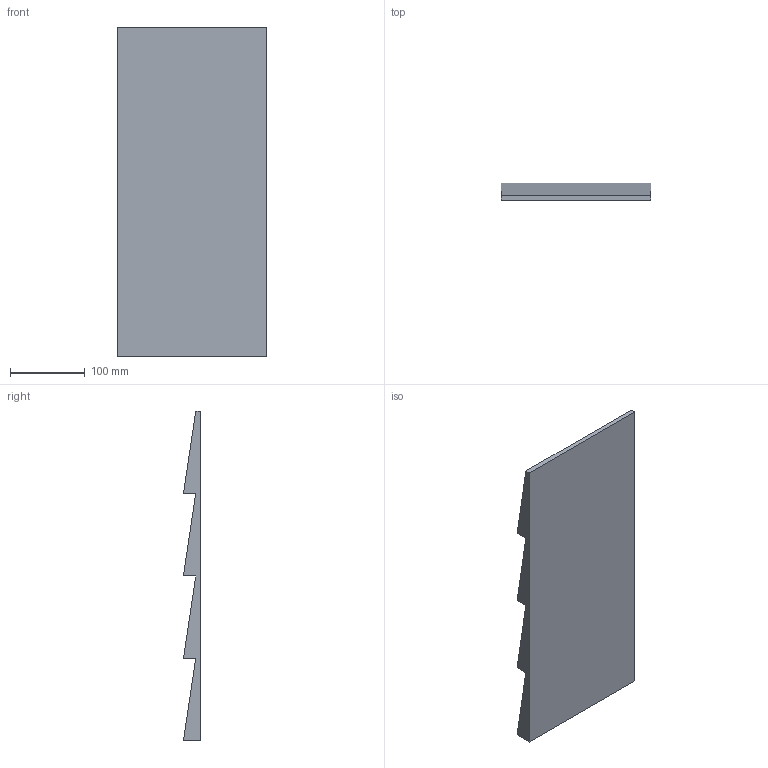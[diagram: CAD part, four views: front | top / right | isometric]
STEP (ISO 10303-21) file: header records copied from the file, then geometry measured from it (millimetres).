
FILE_DESCRIPTION (( 'STEP AP214' ), '1' );
FILE_NAME ('Gewuerzeinsatz_schraeg.STEP', '2010-10-25T12:32:28', ( 'grass' ), ( '' ), 'SwSTEP 2.0', 'SolidWorks 2010', '' );
FILE_SCHEMA (( 'AUTOMOTIVE_DESIGN' ));
Length unit declared in the file: millimetre
Products named in the file (1): Gewuerzeinsatz_schraeg
Bounding box: 200 x 23 x 441 mm (x, y, z)
Volume: 1300950 mm3; surface area: 206191.8 mm2
Topology: 1 solids, 1 shells, 12 faces, 30 edges, 20 vertices
Faces by surface type: plane 12
Entity records: 388 total; most frequent: CARTESIAN_POINT 63, ORIENTED_EDGE 60, DIRECTION 56, EDGE_CURVE 30, LINE 30, VECTOR 30, VERTEX_POINT 20, AXIS2_PLACEMENT_3D 13
